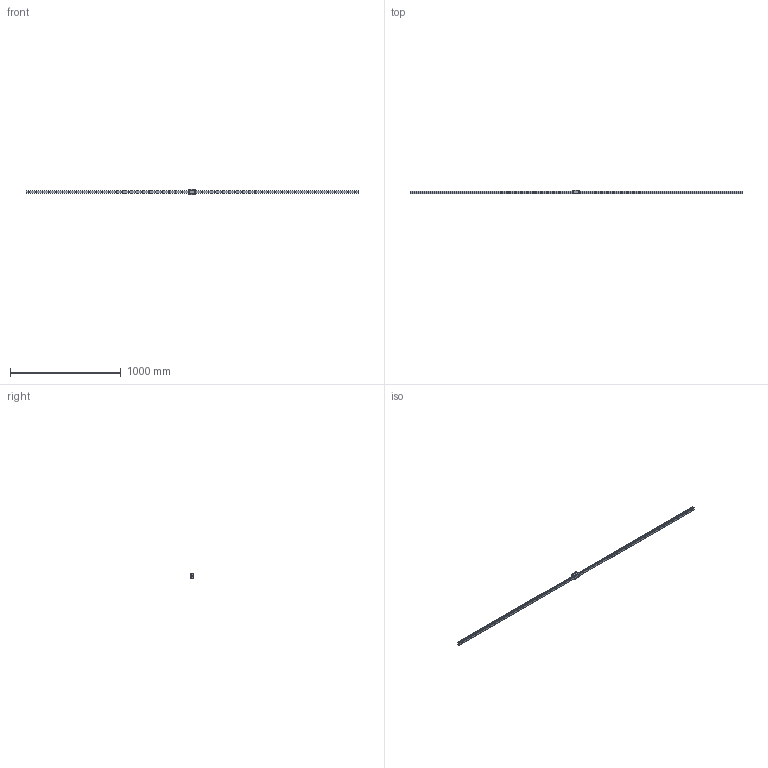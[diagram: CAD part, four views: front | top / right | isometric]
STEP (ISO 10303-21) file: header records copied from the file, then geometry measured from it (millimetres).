
FILE_DESCRIPTION(/* description */ ('STEP AP214'),/* implementation_level */ '2;1');
FILE_NAME(/* name */ 'HDR25SV1SS-3000L_G30_0_PB1021B_1468-05_0_0_01',/* time_stamp */ '2023-06-30T12:57:41+02:00',/* author */ ('License CC BY-ND 4.0'),/* organization */ ('CADENAS'),/* preprocessor_version */ 'ST-DEVELOPER v19.3',/* originating_system */ 'PARTsolutions',/* authorisation */ ' ');
FILE_SCHEMA (('AUTOMOTIVE_DESIGN {1 0 10303 214 3 1 1}'));
Length unit declared in the file: millimetre
Products named in the file (4): HDR25SV1SS-3000L_G30_0_PB1021B_1468-05_0_0_01; hsr_ftht_PB1021B_grease_nipple_joint; HDR25SVSSB-M6F1 Slider; HDR25SV1300030 Rail
Assembly tree (3 placements, depth 2):
  HDR25SV1SS-3000L_G30_0_PB1021B_1468-05_0_0_01
    hsr_ftht_PB1021B_grease_nipple_joint
    HDR25SVSSB-M6F1 Slider
    HDR25SV1300030 Rail
Bounding box: 3000 x 36 x 48 mm (x, y, z)
Volume: 1346927.4 mm3; surface area: 338757 mm2
Topology: 3 solids, 3 shells, 330 faces, 788 edges, 521 vertices
Faces by surface type: cylinder 170, plane 153, cone 6, sphere 1
Full cylindrical faces by diameter (mm): 2.9 x4, 4 x3, 4.917 x3, 6 x1, 7 x50, 7.5 x1, 11 x50
Entity records: 9335 total; most frequent: DIRECTION 1674, CARTESIAN_POINT 1515, ORIENTED_EDGE 1326, AXIS2_PLACEMENT_3D 677, EDGE_CURVE 663, FACE_BOUND 609, EDGE_LOOP 606, VERTEX_POINT 518
